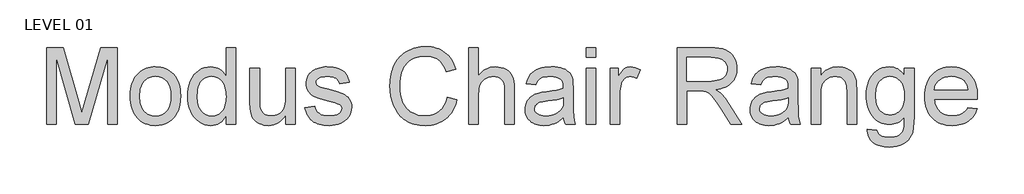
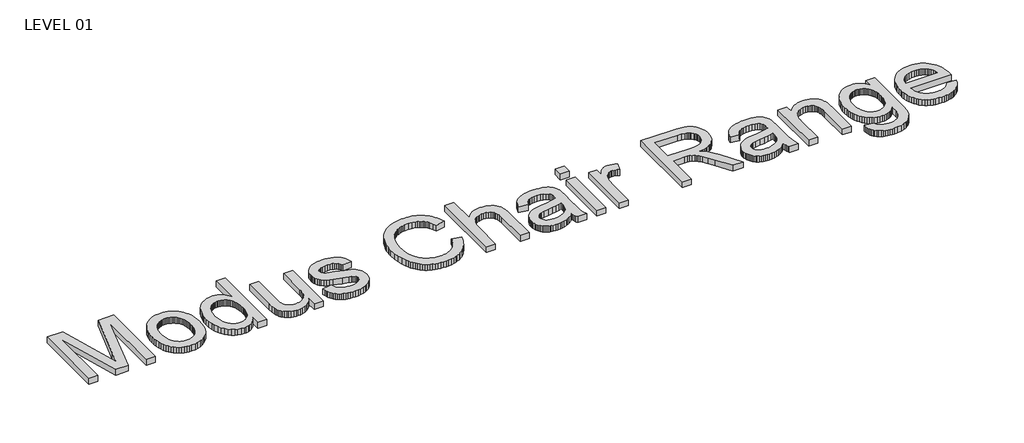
# One storey, part 1 of 2: 1 proxy.
"""IFC4 building model written with IfcOpenShell, lengths in millimetres."""

from ifc_helpers import new_model, si_unit, origin, origin_with_axes, place, context, project, spatial, polyline, outline, extrude, element, save

model = new_model("IFC4")

# Units and contexts
model_context = context("Model", 3, world=origin())
ifc_project = project(units=[si_unit("LENGTHUNIT", "METRE", prefix="MILLI")], contexts=[model_context])

# Site, building, storey
site = spatial("IfcSite", under=ifc_project)
building = spatial("IfcBuilding", under=site)
storey = spatial("IfcBuildingStorey", under=building, Name="LEVEL 01", Elevation=0.0)

# Proxy
placement = place(None, origin())
element("IfcBuildingElementProxy", 1, Name="72\" Arial", ObjectType="72\" Arial", at=placement, inside=storey, context=model_context, shape_type="SweptSolid", body=[
    extrude(outline(polyline([(-28846.8820435, -45475.3556235), (-28846.8820435, -43684.2399871), (-28461.6347594, -43684.2399871), (-28095.1906913, -44946.6791576), (-28021.2896799, -45210.3614644), (-27941.2666913, -44924.814953), (-27580.9446003, -43684.2399871), (-27195.6973163, -43684.2399871), (-27195.6973163, -45475.3556235), (-27419.5867708, -45475.3556235), (-27419.5867708, -43908.1294417), (-27869.5521003, -45475.3556235), (-28173.0272594, -45475.3556235), (-28622.992589, -43908.1294417), (-28622.992589, -45475.3556235), (-28846.8820435, -45475.3556235)])), origin_with_axes(), (0.0, 0.0, 1.0), 152.4),
    extrude(outline(polyline([(-26887.8493163, -44817.6803508), (-26884.8224904, -44729.5607739), (-26875.742013, -44647.3308671), (-26860.6078839, -44570.9906304), (-26839.4201032, -44500.5400638), (-26812.1786708, -44435.9791673), (-26778.8835868, -44377.307941), (-26739.5348512, -44324.5263847), (-26694.132464, -44277.6344985), (-26652.5768102, -44243.5058417), (-26608.8074057, -44213.9276725), (-26562.8242506, -44188.8999908), (-26514.6273447, -44168.4227968), (-26464.2166881, -44152.4960903), (-26411.5922807, -44141.1198714), (-26356.7541227, -44134.29414), (-26299.702214, -44132.0188962), (-26236.4634186, -44134.7895009), (-26176.1831234, -44143.1013149), (-26118.8613284, -44156.9543382), (-26064.4980336, -44176.3485709), (-26013.0932389, -44201.284013), (-25964.6469444, -44231.7606643), (-25919.1591501, -44267.778525), (-25876.629856, -44309.3375951), (-25838.1454397, -44355.7819483), (-25804.792279, -44406.4556586), (-25776.5703737, -44461.358726), (-25753.4797239, -44520.4911505), (-25735.5203297, -44583.852932), (-25722.6921909, -44651.4440706), (-25714.9953076, -44723.2645662), (-25712.4296799, -44799.3144189), (-25716.9665023, -44919.1575901), (-25730.5769697, -45025.499615), (-25753.2610819, -45118.3404935), (-25768.0057548, -45159.6980029), (-25785.018839, -45197.6802258), (-25825.4539523, -45266.2108419), (-25874.170133, -45326.6243721), (-25931.1673812, -45378.9208163), (-25996.4456969, -45423.1001746), (-26067.4633663, -45458.205888), (-26141.6786756, -45483.2813976), (-26219.0916248, -45498.3267034), (-26299.702214, -45503.3418053), (-26363.9385637, -45500.5814495), (-26425.0251014, -45492.300382), (-26482.9618272, -45478.4986029), (-26537.748741, -45459.1761121), (-26589.3858428, -45434.3329097), (-26637.8731327, -45403.9689956), (-26683.2106106, -45368.0843699), (-26725.3982765, -45326.6790326), (-26763.4727389, -45280.0809466), (-26796.4706064, -45228.6180752), (-26824.3918788, -45172.2904182), (-26847.2365563, -45111.0979758), (-26865.0046388, -45045.0407478), (-26877.6961263, -44974.1187343), (-26885.3110188, -44898.3319353), (-26887.8493163, -44817.6803508)]), holes=[polyline([(-26663.9598617, -44817.2430667), (-26662.3405441, -44873.3623304), (-26657.4825911, -44925.8398376), (-26649.3860029, -44974.6755882), (-26638.0507793, -45019.8695823), (-26623.4769205, -45061.4218198), (-26605.6644263, -45099.3323007), (-26584.6132969, -45133.601025), (-26560.3235322, -45164.2279928), (-26533.580877, -45191.2337017), (-26505.1710762, -45214.6386494), (-26475.0941298, -45234.4428359), (-26443.3500378, -45250.6462613), (-26409.9388003, -45263.2489254), (-26374.8604171, -45272.2508284), (-26338.1148883, -45277.6519702), (-26299.702214, -45279.4523508), (-26261.4945165, -45277.6417213), (-26224.9266344, -45272.209833), (-26189.9985677, -45263.1566858), (-26156.7103163, -45250.4822797), (-26125.0618802, -45234.1866148), (-26095.0532594, -45214.269691), (-26066.684454, -45190.7315082), (-26039.955464, -45163.5720667), (-26015.6656992, -45132.7025429), (-25994.6145698, -45098.0341135), (-25976.8020757, -45059.5667787), (-25962.2282168, -45017.3005383), (-25950.8929933, -44971.2353923), (-25942.796405, -44921.3713408), (-25937.9384521, -44867.7083838), (-25936.3191344, -44810.2465212), (-25937.9487009, -44755.9720497), (-25942.8374004, -44705.0933625), (-25950.9852329, -44657.6104595), (-25962.3921984, -44613.5233408), (-25977.0582968, -44572.8320064), (-25994.9835283, -44535.5364562), (-26016.1678927, -44501.6366903), (-26040.6113901, -44471.1327087), (-26067.4736152, -44444.1269998), (-26095.9141625, -44420.7220521), (-26125.9330321, -44400.9178656), (-26157.5302239, -44384.7144402), (-26190.705738, -44372.1117761), (-26225.4595744, -44363.1098731), (-26261.7917331, -44357.7087313), (-26299.702214, -44355.9083508), (-26338.1148883, -44357.7018988), (-26374.8604171, -44363.0825429), (-26409.9388003, -44372.050283), (-26443.3500378, -44384.6051192), (-26475.0941298, -44400.7470515), (-26505.1710762, -44420.4760798), (-26533.580877, -44443.7922042), (-26560.3235322, -44470.6954246), (-26584.6132969, -44501.2199039), (-26605.6644263, -44535.3998049), (-26623.4769205, -44573.2351277), (-26638.0507793, -44614.7258721), (-26649.3860029, -44659.8720382), (-26657.4825911, -44708.673626), (-26662.3405441, -44761.1306355), (-26663.9598617, -44817.2430667)])]), origin_with_axes(), (0.0, 0.0, 1.0), 152.4),
    extrude(outline(polyline([(-24648.9547708, -45475.3556235), (-24648.9547708, -45264.1474076), (-24680.6783651, -45320.2085945), (-24715.9412275, -45368.7949566), (-24754.743358, -45409.9064937), (-24797.0847566, -45443.5432059), (-24842.9654233, -45469.7050931), (-24892.3853582, -45488.3921554), (-24945.3445611, -45499.6043928), (-25001.8430322, -45503.3418053), (-25075.7440435, -45497.9304147), (-25146.5840663, -45481.6962428), (-25214.3631003, -45454.6392897), (-25279.0811458, -45416.7595553), (-25338.7157637, -45369.1912453), (-25391.2445151, -45313.0685652), (-25436.6674001, -45248.3915152), (-25474.9844185, -45175.1600951), (-25505.4029931, -45094.768148), (-25527.1305464, -45008.6095169), (-25540.1670783, -44916.684202), (-25544.512589, -44818.992203), (-25540.5087065, -44723.0903358), (-25528.4970591, -44631.7252911), (-25508.4776469, -44544.8970688), (-25480.4504697, -44462.6056689), (-25444.4291927, -44387.256154), (-25400.427481, -44321.2535866), (-25348.4453347, -44264.5979665), (-25288.4827538, -44217.2892939), (-25222.6578329, -44179.9834949), (-25153.0886671, -44153.3364956), (-25079.7752562, -44137.3482961), (-25002.7176003, -44132.0188962), (-24946.3626131, -44135.8314669), (-24893.1779356, -44147.2691789), (-24843.1635677, -44166.3320322), (-24796.3195094, -44193.0200269), (-24753.1650357, -44225.8026686), (-24714.2194214, -44263.149463), (-24679.4826664, -44305.0604101), (-24648.9547708, -44351.5355098), (-24648.9547708, -43684.2399871), (-24425.0653163, -43684.2399871), (-24425.0653163, -45475.3556235), (-24648.9547708, -45475.3556235)]), holes=[polyline([(-25320.6231344, -44818.1176348), (-25319.0448122, -44874.230066), (-25314.3098454, -44926.6870755), (-25306.418234, -44975.4886633), (-25295.3699782, -45020.6348294), (-25281.1650778, -45062.1255739), (-25263.8035329, -45099.9608966), (-25243.2853434, -45134.1407976), (-25219.6105094, -45164.6652769), (-25193.7902504, -45191.5684973), (-25166.8357857, -45214.8846217), (-25138.7471154, -45234.61365), (-25109.5242395, -45250.7555823), (-25079.167158, -45263.3104185), (-25047.6758709, -45272.2781586), (-25015.0503782, -45277.6588027), (-24981.2906799, -45279.4523508), (-24947.2884255, -45277.7407935), (-24914.5911909, -45272.6061217), (-24883.198976, -45264.0483354), (-24853.1117807, -45252.0674346), (-24824.3296052, -45236.6634192), (-24796.8524494, -45217.8362893), (-24770.6803133, -45195.5860449), (-24745.8131969, -45169.912686), (-24723.1120033, -45140.7205566), (-24703.4376355, -45107.914001), (-24686.7900935, -45071.493019), (-24673.1693773, -45031.4576107), (-24662.575487, -44987.8077761), (-24655.0084224, -44940.5435152), (-24650.4681837, -44889.6648279), (-24648.9547708, -44835.1717144), (-24650.495514, -44775.3526173), (-24655.1177435, -44719.6467236), (-24662.8214593, -44668.0540335), (-24673.6066614, -44620.5745468), (-24687.4733499, -44577.2082636), (-24704.4215247, -44537.9551839), (-24724.4511858, -44502.8153076), (-24747.5623333, -44471.7886348), (-24772.9282269, -44444.6291933), (-24799.7221263, -44421.0910106), (-24827.9440315, -44401.1740867), (-24857.5939427, -44384.8784218), (-24888.6718597, -44372.2040157), (-24921.1777825, -44363.1508685), (-24955.1117112, -44357.7189802), (-24990.4736458, -44355.9083508), (-25025.0532518, -44357.6472383), (-25058.1706891, -44362.8639008), (-25089.8259578, -44371.5583384), (-25120.0190577, -44383.730551), (-25148.749989, -44399.3805387), (-25176.0187516, -44418.5083014), (-25201.8253455, -44441.1138391), (-25226.1697708, -44467.1971519), (-25248.3072779, -44497.0247097), (-25267.4931174, -44530.8629825), (-25283.7272893, -44568.7119703), (-25297.0097935, -44610.5716732), (-25307.3406302, -44656.4420911), (-25314.7197992, -44706.323224), (-25320.6231344, -44818.1176348)])]), origin_with_axes(), (0.0, 0.0, 1.0), 152.4),
    extrude(outline(polyline([(-23249.6456799, -45475.3556235), (-23249.6456799, -45249.2797485), (-23288.4819732, -45308.825543), (-23330.6525577, -45360.4318983), (-23376.1574334, -45404.0988144), (-23424.9966003, -45439.8262911), (-23477.1700584, -45467.6143286), (-23532.6778077, -45487.4629267), (-23591.5198482, -45499.3720857), (-23653.6961799, -45503.3418053), (-23709.1629338, -45500.5541192), (-23762.7439001, -45492.191061), (-23814.4390787, -45478.2526306), (-23864.2484697, -45458.738828), (-23909.9719874, -45435.0161661), (-23949.4095464, -45408.4511576), (-23982.5611465, -45379.0438025), (-24009.4267878, -45346.7941008), (-24031.3866483, -45311.2374381), (-24049.8209057, -45271.9092002), (-24064.7295602, -45228.809387), (-24076.1126117, -45181.9379985), (-24085.9515038, -45097.1048848), (-24089.2311344, -44973.7907712), (-24089.2311344, -44160.005078), (-23865.3416799, -44160.005078), (-23865.3416799, -44868.4053053), (-23861.9527282, -45010.0853508), (-23857.7165386, -45060.2637002), (-23851.7858731, -45096.6676008), (-23838.3803827, -45137.0207233), (-23819.1535478, -45172.8096931), (-23794.1053685, -45204.0345102), (-23763.2358447, -45230.6951746), (-23727.4742051, -45252.0264392), (-23687.7496785, -45267.2630567), (-23644.0622648, -45276.4050272), (-23596.411964, -45279.4523508), (-23547.3404899, -45276.3367016), (-23499.8268404, -45266.9897542), (-23453.8710155, -45251.4115084), (-23409.4730151, -45229.6019644), (-23369.0379018, -45202.4220251), (-23334.9707381, -45170.7325937), (-23307.271524, -45134.53367), (-23285.9402594, -45093.8252542), (-23270.0613809, -45046.0109718), (-23258.7193248, -44988.4944488), (-23251.9140911, -44921.2756849), (-23249.6456799, -44844.3546803), (-23249.6456799, -44160.005078), (-23025.7562253, -44160.005078), (-23025.7562253, -45475.3556235), (-23249.6456799, -45475.3556235)])), origin_with_axes(), (0.0, 0.0, 1.0), 152.4),
    extrude(outline(polyline([(-22801.8667708, -45083.549078), (-22577.9773163, -45055.5628962), (-22564.4488397, -45106.6158138), (-22542.6666259, -45151.3281121), (-22512.6306749, -45189.6997911), (-22474.3409867, -45221.7308508), (-22427.6882403, -45246.984007), (-22372.5631145, -45265.0219758), (-22308.9656096, -45275.844757), (-22236.8957253, -45279.4523508), (-22164.9078319, -45276.1453898), (-22102.8681515, -45266.224507), (-22050.7766841, -45249.6897023), (-22008.6334299, -45226.5409758), (-21976.1104256, -45198.9374175), (-21952.8797083, -45169.0381178), (-21938.9412779, -45136.8430766), (-21934.2951344, -45102.3522939), (-21938.9686082, -45072.1250312), (-21952.9890293, -45045.2867201), (-21976.3563979, -45021.8373607), (-22009.070714, -45001.776953), (-22043.1515428, -44988.4397883), (-22092.9199384, -44973.3534871), (-22239.5194299, -44937.9334758), (-22443.8404214, -44878.845463), (-22519.1899363, -44852.5400919), (-22576.665464, -44828.393811), (-22622.2659956, -44803.0996593), (-22661.9905222, -44773.350676), (-22695.8390439, -44739.1468611), (-22723.8115606, -44700.4882144), (-22745.7167605, -44658.5362719), (-22761.3633319, -44614.4525695), (-22770.7512747, -44568.2371071), (-22773.880589, -44519.8898848), (-22771.3662055, -44475.6831963), (-22763.8230549, -44433.1436533), (-22751.2511373, -44392.2712559), (-22733.6504526, -44353.0660042), (-22711.7042573, -44316.3204754), (-22686.0958077, -44282.8272471), (-22656.8251039, -44252.5863191), (-22623.8921458, -44225.5976917), (-22595.3183635, -44206.8628014), (-22562.0711074, -44189.5764147), (-22481.5561742, -44159.3491519), (-22435.8189913, -44147.392165), (-22388.4693234, -44138.8514601), (-22339.5071703, -44133.7270372), (-22288.9325322, -44132.0188962), (-22213.6923383, -44134.7655869), (-22143.2076089, -44143.005659), (-22077.478344, -44156.7391125), (-22016.5045435, -44175.9659473), (-21961.7347111, -44199.8799211), (-21914.6173503, -44227.6747911), (-21875.1524611, -44259.3505574), (-21843.3400435, -44294.9072201), (-21817.5402822, -44335.5883057), (-21796.1133617, -44382.6373408), (-21779.0592822, -44436.0543255), (-21766.3780435, -44495.8392598), (-21990.2674981, -44523.8254417), (-22000.9399629, -44486.4239868), (-22018.5269824, -44453.3680425), (-22043.0285567, -44424.6576089), (-22074.4446856, -44400.292686), (-22112.9120204, -44380.8745393), (-22158.5672126, -44367.0044346), (-22211.4102619, -44358.6823717), (-22271.4411685, -44355.9083508), (-22341.07866, -44358.5593856), (-22400.0026913, -44366.51249), (-22448.2132623, -44379.767664), (-22485.7103731, -44398.3249076), (-22513.8332062, -44420.4077542), (-22533.9209441, -44444.2397371), (-22545.9735868, -44469.8208564), (-22549.9911344, -44497.1511121), (-22548.3239888, -44514.8337875), (-22543.322552, -44531.5872343), (-22534.9868241, -44547.4114523), (-22523.3168049, -44562.3064417), (-22508.0938525, -44576.7094864), (-22489.0993248, -44589.7460184), (-22439.7955435, -44611.7195439), (-22246.9532594, -44659.3835098), (-22049.1368688, -44717.870257), (-21918.3342651, -44764.7689758), (-21872.3101145, -44787.6443998), (-21831.5333731, -44815.1659672), (-21796.0040407, -44847.3336782), (-21765.7221174, -44884.1475326), (-21741.521176, -44925.662191), (-21724.2347893, -44971.9323138), (-21713.8629572, -45022.9579012), (-21710.4056799, -45078.738953), (-21714.4642229, -45134.7659772), (-21726.6398518, -45189.153186), (-21746.9325666, -45241.9005794), (-21775.3423674, -45293.0081576), (-21811.4046398, -45340.4398163), (-21854.6547694, -45382.1594516), (-21905.0927562, -45418.1670635), (-21962.7186003, -45448.4626519), (-22025.960812, -45472.4722815), (-22093.2479015, -45489.6220169), (-22164.5798688, -45499.9118582), (-22239.956714, -45503.3418053), (-22302.112548, -45501.6883248), (-22360.4558113, -45496.7278834), (-22414.9865039, -45488.4604811), (-22465.7046259, -45476.8861178), (-22512.6101772, -45462.0047936), (-22555.7031579, -45443.8165084), (-22594.9835679, -45422.3212623), (-22630.4514072, -45397.5190553), (-22662.4961319, -45369.4645478), (-22691.5071984, -45338.2124005), (-22717.4846064, -45303.7626132), (-22740.428356, -45266.115186), (-22760.3384473, -45225.2701189), (-22777.2148802, -45181.2274118), (-22791.0576547, -45133.9870649), (-22801.8667708, -45083.549078)])), origin_with_axes(), (0.0, 0.0, 1.0), 152.4),
    extrude(outline(polyline([(-19471.5111344, -44838.6699871), (-19247.6216799, -44896.3914871), (-19267.9348924, -44968.2051502), (-19291.9240243, -45035.6254747), (-19319.5890757, -45098.6524606), (-19350.9300464, -45157.2861079), (-19385.9469365, -45211.5264165), (-19424.6397459, -45261.3733866), (-19467.0084748, -45306.8270181), (-19513.0531231, -45347.887311), (-19562.2749136, -45384.3219581), (-19614.1750691, -45415.8986522), (-19668.7535897, -45442.6173935), (-19726.0104753, -45464.4781817), (-19785.9457261, -45481.481017), (-19848.5593418, -45493.6258994), (-19913.8513226, -45500.9128288), (-19981.8216685, -45503.3418053), (-20051.7563765, -45501.5038456), (-20118.3499608, -45495.9899665), (-20181.6024213, -45486.800168), (-20241.513758, -45473.9344502), (-20298.083971, -45457.3928129), (-20351.3130602, -45437.1752563), (-20401.2010257, -45413.2817803), (-20447.7478674, -45385.7123848), (-20491.2849647, -45354.6583818), (-20532.1436969, -45320.311083), (-20570.3240641, -45282.6704884), (-20605.8260663, -45241.7365979), (-20638.6497033, -45197.5094117), (-20668.7949753, -45149.9889296), (-20696.2618823, -45099.1751517), (-20721.0504242, -45045.068078), (-20762.0868031, -44931.5108657), (-20791.3985023, -44813.854115), (-20808.9855219, -44692.0978259), (-20814.8478617, -44566.2419985), (-20813.190965, -44497.6088939), (-20808.2202747, -44431.2032052), (-20799.935791, -44367.0249323), (-20788.3375137, -44305.0740752), (-20773.4254429, -44245.350634), (-20755.1995787, -44187.8546086), (-20733.6599209, -44132.585999), (-20708.8064697, -44079.5448053), (-20680.8988623, -44029.1785604), (-20650.1967364, -43981.9347971), (-20616.7000917, -43937.8135156), (-20580.4089285, -43896.8147158), (-20541.3232466, -43858.9383977), (-20499.443046, -43824.1845613), (-20454.7683268, -43792.5532067), (-20407.299089, -43764.0443337), (-20357.8176611, -43738.7809286), (-20307.1063716, -43716.8859775), (-20255.1652207, -43698.3594805), (-20201.9942083, -43683.2014374), (-20147.5933344, -43671.4118484), (-20091.9625989, -43662.9907133), (-20035.102002, -43657.9380323), (-19977.0115435, -43656.2538053), (-19911.6546533, -43658.4333932), (-19848.9556305, -43664.9721569), (-19788.9144751, -43675.8700963), (-19731.531187, -43691.1272116), (-19676.8057663, -43710.7435026), (-19624.7382129, -43734.7189694), (-19575.3285269, -43763.0536119), (-19528.5767083, -43795.7474303), (-19484.8790457, -43832.3973032), (-19444.631828, -43872.6001093), (-19407.835055, -43916.3558486), (-19374.4887268, -43963.6645212), (-19344.5928433, -44014.526127), (-19318.1474047, -44068.9406661), (-19295.1524108, -44126.9081384), (-19275.6078617, -44188.4285439), (-19499.4973163, -44241.777203), (-19534.7533461, -44153.7327843), (-19577.1152424, -44078.5062556), (-19600.9608905, -44045.6996999), (-19626.5830052, -44016.0976167), (-19653.9815865, -43989.700006), (-19683.1566344, -43966.5068678), (-19714.1901398, -43946.2653972), (-19747.1640932, -43928.7227893), (-19782.0784949, -43913.8790442), (-19818.9333447, -43901.7341618), (-19898.4643887, -43885.5409853), (-19985.7572253, -43880.1432598), (-20086.195915, -43886.1285858), (-20133.1971222, -43893.6102433), (-20178.0529043, -43904.0845638), (-20220.7632614, -43917.5515473), (-20261.3281934, -43934.0111938), (-20299.7477003, -43953.4635033), (-20336.0217822, -43975.9084758), (-20369.9147155, -44000.8746643), (-20401.1907768, -44027.8906221), (-20429.8499662, -44056.956349), (-20455.8922836, -44088.0718451), (-20479.317729, -44121.2371103), (-20500.1263024, -44156.4521448), (-20518.3180038, -44193.7169484), (-20533.8928333, -44233.0315212), (-20558.8590219, -44314.3390319), (-20576.6920137, -44396.9037343), (-20587.3918088, -44480.7256285), (-20590.9584072, -44565.8047144), (-20586.7358827, -44672.7206746), (-20574.0683091, -44772.6400894), (-20552.9556866, -44865.5629587), (-20523.3980151, -44951.4892826), (-20505.3327161, -44991.4017047), (-20484.9170151, -45028.71092), (-20462.1509121, -45063.4169284), (-20437.0344072, -45095.51973), (-20409.5675002, -45125.0193247), (-20379.7501913, -45151.9157126), (-20347.5824803, -45176.2088936), (-20313.0643674, -45197.8988678), (-20240.2155709, -45233.5785166), (-20164.442437, -45259.06398), (-20085.7449658, -45274.3552581), (-20004.1231572, -45279.4523508), (-19954.481164, -45277.7168795), (-19906.7864516, -45272.5104658), (-19861.0390198, -45263.8331096), (-19817.2388688, -45251.684811), (-19775.3859985, -45236.0655699), (-19735.4804089, -45216.9753863), (-19697.5221001, -45194.4142602), (-19661.5110719, -45168.3821917), (-19627.8846086, -45138.9338412), (-19597.0799942, -45106.1238692), (-19569.0972286, -45069.9522758), (-19543.936312, -45030.419061), (-19521.5972443, -44987.5242247), (-19502.0800254, -44941.2677669), (-19485.3846555, -44891.6496878), (-19471.5111344, -44838.6699871)])), origin_with_axes(), (0.0, 0.0, 1.0), 152.4),
    extrude(outline(polyline([(-18967.7598617, -45475.3556235), (-18967.7598617, -43684.2399871), (-18743.8704072, -43684.2399871), (-18743.8704072, -44342.789828), (-18704.0160618, -44293.3903909), (-18661.6336678, -44250.5775454), (-18616.7232252, -44214.3512915), (-18569.2847339, -44184.7116292), (-18519.3181939, -44161.6585585), (-18466.8236053, -44145.1920794), (-18411.8009681, -44135.312192), (-18354.2502822, -44132.0188962), (-18284.2574974, -44135.6128248), (-18219.020177, -44146.3946107), (-18158.5383212, -44164.3642538), (-18102.8119299, -44189.5217542), (-18053.2621763, -44221.0198738), (-18011.3102339, -44258.0113749), (-17976.9561025, -44300.4962574), (-17950.1997822, -44348.4745212), (-17930.1120442, -44404.9114992), (-17915.76366, -44472.7725241), (-17907.1546295, -44552.0575958), (-17904.2849526, -44642.7667144), (-17904.2849526, -45475.3556235), (-18128.1744072, -45475.3556235), (-18128.1744072, -44665.9427712), (-18132.6292388, -44590.347284), (-18145.9937339, -44525.7932201), (-18168.2678922, -44472.2805794), (-18182.7460952, -44449.6647929), (-18199.451714, -44429.8093621), (-18238.8072822, -44397.4776696), (-18285.5966799, -44374.3836036), (-18339.8199072, -44360.527164), (-18401.476964, -44355.9083508), (-18449.5098883, -44359.0239999), (-18496.0943091, -44368.3709473), (-18541.2302264, -44383.9491931), (-18584.9176401, -44405.7587371), (-18624.7924832, -44432.897681), (-18658.4906884, -44464.4641263), (-18686.0122559, -44500.4580731), (-18707.3571856, -44540.8795212), (-18723.33172, -44587.5869282), (-18734.7421018, -44642.4387513), (-18741.5883308, -44705.4349907), (-18743.8704072, -44776.5756462), (-18743.8704072, -45475.3556235), (-18967.7598617, -45475.3556235)])), origin_with_axes(), (0.0, 0.0, 1.0), 152.4),
    extrude(outline(polyline([(-16756.8514981, -45307.4385326), (-16809.9405197, -45357.2615887), (-16863.8221188, -45399.1588706), (-16918.4962953, -45433.1303785), (-16973.9630492, -45459.1761121), (-17030.8509764, -45478.4986029), (-17089.7886728, -45492.300382), (-17150.7761383, -45500.5814495), (-17213.8133731, -45503.3418053), (-17265.1908375, -45501.6814923), (-17313.5004807, -45496.7005532), (-17358.7423027, -45488.398988), (-17400.9163035, -45476.7767968), (-17440.0224831, -45461.8339795), (-17476.0608415, -45443.5705361), (-17509.0313787, -45421.9864667), (-17538.9340947, -45397.0817712), (-17565.5298497, -45369.5943666), (-17588.5795041, -45340.2621696), (-17608.0830578, -45309.0851805), (-17624.0405109, -45276.0633991), (-17636.4518632, -45241.1968254), (-17645.3171149, -45204.4854594), (-17650.6362659, -45165.9293012), (-17652.4093163, -45125.5283508), (-17649.7309512, -45078.0556966), (-17641.695856, -45032.7148025), (-17628.3040307, -44989.5056682), (-17609.5554753, -44948.4282939), (-17586.4477442, -44910.384578), (-17559.9783915, -44876.2764189), (-17530.1474175, -44846.1038167), (-17496.9548219, -44819.8667712), (-17461.0018706, -44797.073338), (-17422.889829, -44777.2315723), (-17382.6186973, -44760.3414743), (-17340.1884753, -44746.4030439), (-17259.6188816, -44729.2396434), (-17146.4716231, -44712.7321689), (-17023.321491, -44695.7874104), (-16917.5534015, -44677.3121576), (-16829.1673546, -44657.3064104), (-16758.1633503, -44635.7701689), (-16756.8514981, -44585.9197826), (-16760.7050641, -44531.6418948), (-16772.2657623, -44486.0003678), (-16791.5335925, -44448.9952016), (-16818.5085549, -44420.6263962), (-16865.1339711, -44392.3122513), (-16921.9262424, -44372.0878621), (-16988.8853688, -44359.9532286), (-17066.0113503, -44355.9083508), (-17137.7259413, -44358.6003809), (-17199.3829981, -44366.6764715), (-17250.9825208, -44380.1366224), (-17292.5245094, -44398.9808337), (-17326.6599988, -44424.6849392), (-17356.0400236, -44458.7247726), (-17380.664584, -44501.1003341), (-17400.5336799, -44551.8116235), (-17624.4231344, -44523.8254417), (-17607.38272, -44459.3260383), (-17585.5595109, -44401.3858962), (-17558.9535069, -44350.0050155), (-17527.5647083, -44305.1833962), (-17490.0402672, -44266.0191398), (-17445.0273361, -44231.6103479), (-17392.525915, -44201.9570205), (-17332.5360038, -44177.0591576), (-17266.2737989, -44157.3540432), (-17194.9554966, -44143.2789616), (-17118.5810971, -44134.8339125), (-17037.1506003, -44132.0188962), (-16957.5512307, -44134.5059495), (-16885.7956444, -44141.9671093), (-16821.8838415, -44154.4023756), (-16765.8158219, -44171.8117485), (-16717.1269714, -44192.9790315), (-16675.3526756, -44216.6880283), (-16640.4929345, -44242.9387389), (-16612.5477481, -44271.7311633), (-16589.8909661, -44303.775888), (-16570.8964384, -44339.7834999), (-16555.564165, -44379.7539988), (-16543.8941458, -44423.6873848), (-16535.6950691, -44501.0866689), (-16532.9620435, -44619.5906576), (-16532.9620435, -44898.1406235), (-16530.1196969, -45140.7786334), (-16521.5926572, -45287.1048223), (-16504.7572197, -45383.2526618), (-16476.9896799, -45475.3556235), (-16700.8791344, -45475.3556235), (-16720.7755606, -45437.9678337), (-16736.7364299, -45397.5190553), (-16748.7617424, -45354.0092883), (-16756.8514981, -45307.4385326)]), holes=[polyline([(-16756.8514981, -44859.6596235), (-16824.5212111, -44879.0367748), (-16907.2772253, -44896.9380922), (-17005.1195407, -44913.3635759), (-17118.0481572, -44928.3132258), (-17234.2017438, -44945.4766263), (-17310.6717992, -44964.6078053), (-17337.3597939, -44975.8405404), (-17360.7954881, -44989.4236775), (-17380.9788819, -45005.3572165), (-17397.9099753, -45023.6411576), (-17411.3018006, -45043.6195745), (-17420.8673901, -45064.6365411), (-17426.6067438, -45086.6920574), (-17428.5198617, -45109.7861235), (-17424.3519977, -45144.577539), (-17411.8484057, -45176.3626263), (-17391.0090858, -45205.1413856), (-17361.8340378, -45230.9138167), (-17324.5965645, -45252.1494253), (-17279.5699682, -45267.3177172), (-17226.7542491, -45276.4186924), (-17166.1494072, -45279.4523508), (-17104.2737083, -45276.1043944), (-17045.8962822, -45266.0605255), (-16991.0171288, -45249.3207439), (-16939.6362481, -45225.8850496), (-16893.2841344, -45197.6938909), (-16853.4912822, -45166.6877158), (-16820.2576913, -45132.8665244), (-16793.5833617, -45096.2303167), (-16778.0871067, -45063.4340098), (-16767.0183532, -45023.6411576), (-16760.3771011, -44976.8517598), (-16758.1633503, -44923.0658167), (-16756.8514981, -44859.6596235)])]), origin_with_axes(), (0.0, 0.0, 1.0), 152.4),
    extrude(outline(polyline([(-16225.1140435, -45475.3556235), (-16225.1140435, -44160.005078), (-16001.224589, -44160.005078), (-16001.224589, -45475.3556235), (-16225.1140435, -45475.3556235)])), origin_with_axes(), (0.0, 0.0, 1.0), 152.4),
    extrude(outline(polyline([(-16225.1140435, -43908.1294417), (-16225.1140435, -43684.2399871), (-16001.224589, -43684.2399871), (-16001.224589, -43908.1294417), (-16225.1140435, -43908.1294417)])), origin_with_axes(), (0.0, 0.0, 1.0), 152.4),
    extrude(outline(polyline([(-15665.3904072, -45475.3556235), (-15665.3904072, -44160.005078), (-15469.4871344, -44160.005078), (-15469.4871344, -44354.5964985), (-15432.5912893, -44292.3928366), (-15397.1166174, -44241.777203), (-15363.0631188, -44202.7495979), (-15330.4307935, -44175.3100212), (-15297.7438077, -44156.370154), (-15263.5263276, -44142.8416775), (-15227.7783532, -44134.7245915), (-15190.4998844, -44132.0188962), (-15134.9648049, -44136.3370766), (-15078.9924413, -44149.2916178), (-15022.5827935, -44170.8825198), (-14965.7358617, -44201.1097826), (-15040.5114413, -44401.8231803), (-15079.8670094, -44381.7354424), (-15119.2225776, -44367.3870581), (-15158.5781458, -44358.7780276), (-15197.933714, -44355.9083508), (-15232.24685, -44358.6687066), (-15264.7835194, -44366.9497741), (-15295.5437221, -44380.7515532), (-15324.5274583, -44400.0740439), (-15350.6415176, -44424.2886505), (-15372.7926898, -44452.7667769), (-15390.980975, -44485.5084232), (-15405.2063731, -44522.5135894), (-15421.0852516, -44583.6240411), (-15432.4273077, -44647.5768394), (-15439.2325414, -44714.3719843), (-15441.5009526, -44784.0094758), (-15441.5009526, -45475.3556235), (-15665.3904072, -45475.3556235)])), origin_with_axes(), (0.0, 0.0, 1.0), 152.4),
    extrude(outline(polyline([(-14098.1642253, -45475.3556235), (-14098.1642253, -43684.2399871), (-13326.3578049, -43684.2399871), (-13215.5746135, -43687.2599804), (-13118.9211643, -43696.3199601), (-13036.3974572, -43711.4199264), (-12968.0034924, -43732.5598792), (-12909.7627175, -43761.3659687), (-12857.6985805, -43799.4643451), (-12811.8110812, -43846.8550084), (-12772.1002197, -43903.5379587), (-12740.0554949, -43966.4658724), (-12717.1664057, -44032.591426), (-12703.4329523, -44101.9146196), (-12698.8551344, -44174.435453), (-12700.7511709, -44221.3751672), (-12706.4392804, -44266.4290937), (-12715.9194628, -44309.5972325), (-12729.1917182, -44350.8795837), (-12746.2560466, -44390.2761473), (-12767.112448, -44427.7869232), (-12791.7609223, -44463.4119115), (-12820.2014697, -44497.1511121), (-12852.6049041, -44528.4510874), (-12889.1420396, -44556.7583998), (-12929.8128764, -44582.0730491), (-12974.6174143, -44604.3950354), (-13023.5556533, -44623.7243587), (-13076.6275936, -44640.0610191), (-13133.833235, -44653.4050164), (-13195.1725776, -44663.7563508), (-13121.3808873, -44711.9669218), (-13092.1101834, -44735.826235), (-13067.9229072, -44759.5215667), (-12976.2025691, -44868.2959843), (-12886.4500094, -44989.9702826), (-12587.7849753, -45475.3556235), (-12847.9690094, -45475.3556235), (-13081.0414299, -45104.1014303), (-13174.2922623, -44962.4213848), (-13249.3958049, -44858.3477712), (-13281.5498507, -44819.1151892), (-13311.9820904, -44786.6878408), (-13340.692524, -44761.0657261), (-13367.6811515, -44742.2488451), (-13420.4285449, -44716.1757812), (-13474.1598276, -44699.6136462), (-13526.5245975, -44693.710311), (-13604.0332026, -44691.7425326), (-13874.2747708, -44691.7425326), (-13874.2747708, -45475.3556235), (-14098.1642253, -45475.3556235)]), holes=[polyline([(-13874.2747708, -44467.853078), (-13373.1472026, -44467.853078), (-13297.1554267, -44465.8716345), (-13229.2260762, -44459.9273039), (-13169.3591511, -44450.0200862), (-13117.5546515, -44436.1499814), (-13072.6510414, -44417.9207009), (-13033.486785, -44394.9359559), (-13000.0618823, -44367.1957464), (-12972.3763333, -44334.7000723), (-12950.6624452, -44299.0477538), (-12935.1525251, -44261.8376107), (-12925.846573, -44223.069643), (-12922.744589, -44182.7438508), (-12928.6615893, -44125.4869651), (-12936.0578398, -44098.8467984), (-12946.4125904, -44073.5321491), (-12959.7258412, -44049.5430171), (-12975.9975922, -44026.8794026), (-13017.4165947, -43985.5287258), (-13042.8029859, -43967.3882685), (-13071.6261568, -43951.666539), (-13103.8861074, -43938.363537), (-13139.5828376, -43927.4792627), (-13221.2866369, -43912.9668969), (-13316.7375549, -43908.1294417), (-13874.2747708, -43908.1294417), (-13874.2747708, -44467.853078)])]), origin_with_axes(), (0.0, 0.0, 1.0), 152.4),
    extrude(outline(polyline([(-11495.4493163, -45307.4385326), (-11548.5383379, -45357.2615887), (-11602.419937, -45399.1588706), (-11657.0941135, -45433.1303785), (-11712.5608674, -45459.1761121), (-11769.4487946, -45478.4986029), (-11828.386491, -45492.300382), (-11889.3739565, -45500.5814495), (-11952.4111913, -45503.3418053), (-12003.7886557, -45501.6814923), (-12052.0982989, -45496.7005532), (-12097.3401209, -45488.398988), (-12139.5141216, -45476.7767968), (-12178.6203012, -45461.8339795), (-12214.6586596, -45443.5705361), (-12247.6291968, -45421.9864667), (-12277.5319128, -45397.0817712), (-12304.1276679, -45369.5943666), (-12327.1773223, -45340.2621696), (-12346.680876, -45309.0851805), (-12362.638329, -45276.0633991), (-12375.0496814, -45241.1968254), (-12383.9149331, -45204.4854594), (-12389.2340841, -45165.9293012), (-12391.0071344, -45125.5283508), (-12388.3287694, -45078.0556966), (-12380.2936742, -45032.7148025), (-12366.9018489, -44989.5056682), (-12348.1532935, -44948.4282939), (-12325.0455623, -44910.384578), (-12298.5762097, -44876.2764189), (-12268.7452356, -44846.1038167), (-12235.5526401, -44819.8667712), (-12199.5996888, -44797.073338), (-12161.4876472, -44777.2315723), (-12121.2165155, -44760.3414743), (-12078.7862935, -44746.4030439), (-11998.2166998, -44729.2396434), (-11885.0694413, -44712.7321689), (-11761.9193091, -44695.7874104), (-11656.1512197, -44677.3121576), (-11567.7651728, -44657.3064104), (-11496.7611685, -44635.7701689), (-11495.4493163, -44585.9197826), (-11499.3028823, -44531.6418948), (-11510.8635805, -44486.0003678), (-11530.1314107, -44448.9952016), (-11557.1063731, -44420.6263962), (-11603.7317893, -44392.3122513), (-11660.5240606, -44372.0878621), (-11727.483187, -44359.9532286), (-11804.6091685, -44355.9083508), (-11876.3237594, -44358.6003809), (-11937.9808163, -44366.6764715), (-11989.580339, -44380.1366224), (-12031.1223276, -44398.9808337), (-12065.257817, -44424.6849392), (-12094.6378418, -44458.7247726), (-12119.2624022, -44501.1003341), (-12139.1314981, -44551.8116235), (-12363.0209526, -44523.8254417), (-12345.9805382, -44459.3260383), (-12324.157329, -44401.3858962), (-12297.5513251, -44350.0050155), (-12266.1625265, -44305.1833962), (-12228.6380854, -44266.0191398), (-12183.6251543, -44231.6103479), (-12131.1237332, -44201.9570205), (-12071.1338219, -44177.0591576), (-12004.871617, -44157.3540432), (-11933.5533148, -44143.2789616), (-11857.1789153, -44134.8339125), (-11775.7484185, -44132.0188962), (-11696.1490489, -44134.5059495), (-11624.3934626, -44141.9671093), (-11560.4816596, -44154.4023756), (-11504.4136401, -44171.8117485), (-11455.7247896, -44192.9790315), (-11413.9504938, -44216.6880283), (-11379.0907527, -44242.9387389), (-11351.1455663, -44271.7311633), (-11328.4887843, -44303.775888), (-11309.4942566, -44339.7834999), (-11294.1619832, -44379.7539988), (-11282.491964, -44423.6873848), (-11274.2928873, -44501.0866689), (-11271.5598617, -44619.5906576), (-11271.5598617, -44898.1406235), (-11268.7175151, -45140.7786334), (-11260.1904753, -45287.1048223), (-11243.3550378, -45383.2526618), (-11215.5874981, -45475.3556235), (-11439.4769526, -45475.3556235), (-11459.3733788, -45437.9678337), (-11475.3342481, -45397.5190553), (-11487.3595606, -45354.0092883), (-11495.4493163, -45307.4385326)]), holes=[polyline([(-11495.4493163, -44859.6596235), (-11563.1190293, -44879.0367748), (-11645.8750435, -44896.9380922), (-11743.7173589, -44913.3635759), (-11856.6459753, -44928.3132258), (-11972.799562, -44945.4766263), (-12049.2696174, -44964.6078053), (-12075.9576121, -44975.8405404), (-12099.3933063, -44989.4236775), (-12119.5767001, -45005.3572165), (-12136.5077935, -45023.6411576), (-12149.8996188, -45043.6195745), (-12159.4652083, -45064.6365411), (-12165.204562, -45086.6920574), (-12167.1176799, -45109.7861235), (-12162.9498159, -45144.577539), (-12150.4462239, -45176.3626263), (-12129.606904, -45205.1413856), (-12100.431856, -45230.9138167), (-12063.1943827, -45252.1494253), (-12018.1677864, -45267.3177172), (-11965.3520673, -45276.4186924), (-11904.7472253, -45279.4523508), (-11842.8715265, -45276.1043944), (-11784.4941003, -45266.0605255), (-11729.6149469, -45249.3207439), (-11678.2340663, -45225.8850496), (-11631.8819526, -45197.6938909), (-11592.0891003, -45166.6877158), (-11558.8555094, -45132.8665244), (-11532.1811799, -45096.2303167), (-11516.6849249, -45063.4340098), (-11505.6161714, -45023.6411576), (-11498.9749192, -44976.8517598), (-11496.7611685, -44923.0658167), (-11495.4493163, -44859.6596235)])]), origin_with_axes(), (0.0, 0.0, 1.0), 152.4),
    extrude(outline(polyline([(-10963.7118617, -45475.3556235), (-10963.7118617, -44160.005078), (-10739.8224072, -44160.005078), (-10739.8224072, -44343.6643962), (-10702.8855666, -44294.0599821), (-10662.0404995, -44251.06949), (-10617.2872058, -44214.6929196), (-10568.6256856, -44184.9302712), (-10516.0559388, -44161.7815446), (-10459.5779654, -44145.24674), (-10399.1917655, -44135.3258571), (-10334.897339, -44132.0188962), (-10278.5560169, -44134.6835961), (-10224.5377665, -44142.6776959), (-10172.8425879, -44156.0011956), (-10123.470481, -44174.6540951), (-10078.2935684, -44197.6388401), (-10039.1839725, -44223.9578763), (-10006.1416934, -44253.6112037), (-9979.166731, -44286.5988223), (-9957.0155588, -44322.8797368), (-9938.4446501, -44362.4129516), (-9923.4540048, -44405.1984669), (-9912.0436231, -44451.2362826), (-9903.1886202, -44536.1787172), (-9900.2369526, -44667.6919076), (-9900.2369526, -45475.3556235), (-10124.1264072, -45475.3556235), (-10124.1264072, -44697.8645098), (-10125.7388922, -44635.7974992), (-10130.5763475, -44582.0935468), (-10138.6387729, -44536.7526526), (-10149.9261685, -44499.7748167), (-10165.2994373, -44468.6319903), (-10185.6194824, -44440.7961249), (-10210.8863038, -44416.2672204), (-10241.0999015, -44395.0452769), (-10275.2217257, -44377.9228717), (-10312.2132268, -44365.6925823), (-10352.0744047, -44358.3544086), (-10394.8052594, -44355.9083508), (-10462.7892704, -44361.4017321), (-10525.9358262, -44377.8818763), (-10584.2449267, -44405.3487833), (-10637.7165719, -44443.802453), (-10661.6476271, -44468.2425342), (-10682.3878748, -44497.6157265), (-10699.9373153, -44531.9220299), (-10714.2959484, -44571.1614445), (-10725.4637741, -44615.3339703), (-10733.4407925, -44664.4396071), (-10738.2270035, -44718.4783552), (-10739.8224072, -44777.4502144), (-10739.8224072, -45475.3556235), (-10963.7118617, -45475.3556235)])), origin_with_axes(), (0.0, 0.0, 1.0), 152.4),
    extrude(outline(polyline([(-9648.3613163, -45587.3003508), (-9424.4718617, -45615.2865326), (-9415.0155932, -45653.0022854), (-9399.7653106, -45685.2519871), (-9378.7210137, -45712.0356377), (-9351.8827026, -45733.3532371), (-9308.4549263, -45755.1627812), (-9257.757302, -45770.7410269), (-9199.7898297, -45780.0879743), (-9134.5525094, -45783.2036235), (-9064.6417154, -45779.6780205), (-9003.1486401, -45769.1012116), (-8950.0732836, -45751.4731966), (-8905.4156458, -45726.7939758), (-8868.2464981, -45695.7468053), (-8837.6366117, -45659.0149417), (-8813.5859867, -45616.5983848), (-8796.0946231, -45568.4971348), (-8788.9067658, -45528.8955944), (-8783.9599895, -45472.1853138), (-8780.7896799, -45307.4385326), (-8816.9612733, -45346.7941008), (-8855.2919569, -45380.9022598), (-8895.7817307, -45409.7630098), (-8938.4305947, -45433.3763508), (-8983.2385489, -45451.7422826), (-9030.2055932, -45464.8608053), (-9079.3317278, -45472.7319189), (-9130.6169526, -45475.3556235), (-9193.8284177, -45472.3014674), (-9253.370796, -45463.1389992), (-9309.2440875, -45447.8682188), (-9361.4482921, -45426.4891263), (-9409.9834099, -45399.0017217), (-9454.8494409, -45365.4060049), (-9496.0463851, -45325.7019759), (-9533.5742424, -45279.8896348), (-9567.0367242, -45229.8069413), (-9596.0375417, -45177.291855), (-9620.5766951, -45122.344376), (-9640.6541841, -45064.9645042), (-9656.270009, -45005.1522396), (-9667.4241696, -44942.9075823), (-9674.116666, -44878.2305322), (-9676.3474981, -44811.1210894), (-9672.3436156, -44718.9224718), (-9660.3319682, -44630.3587783), (-9640.312556, -44545.4300088), (-9612.2853788, -44464.1361633), (-9576.6740556, -44389.182937), (-9533.9022055, -44323.2760255), (-9483.9698283, -44266.4154285), (-9426.8769242, -44218.6011462), (-9363.5390567, -44180.7214118), (-9294.8717893, -44153.6644587), (-9220.875122, -44137.4302868), (-9141.5490549, -44132.0188962), (-9087.9885863, -44135.0798848), (-9036.8468454, -44144.2628508), (-8988.1238321, -44159.5677939), (-8941.8195464, -44180.9947144), (-8897.9339883, -44208.5436121), (-8856.4671579, -44242.2144871), (-8817.4190551, -44282.0073394), (-8780.7896799, -44327.9221689), (-8780.7896799, -44160.005078), (-8556.9002253, -44160.005078), (-8556.9002253, -45295.6318621), (-8560.7264611, -45437.9268383), (-8572.2051685, -45557.8383351), (-8591.3363475, -45655.3663525), (-8603.7716138, -45695.7365565), (-8618.1199981, -45730.5108905), (-8653.1983812, -45791.1157325), (-8697.213758, -45845.0246618), (-8750.1661284, -45892.2376785), (-8812.0554924, -45932.7547826), (-8882.2532541, -45965.2777868), (-8960.1308177, -45988.5085042), (-9045.6881831, -46002.4469346), (-9138.9253503, -46007.093078), (-9195.1539351, -46005.456679), (-9248.6153315, -46000.5474818), (-9299.3095395, -45992.3654865), (-9347.2365591, -45980.9106931), (-9392.3963904, -45966.1831016), (-9434.7890332, -45948.1827119), (-9474.4144877, -45926.9095241), (-9511.2727538, -45902.3635383), (-9544.4551004, -45874.5310891), (-9573.0527967, -45843.3985116), (-9597.0658426, -45808.9658057), (-9616.4942381, -45771.2329715), (-9631.3379832, -45730.2000089), (-9641.597078, -45685.8669179), (-9647.2715223, -45638.2336985), (-9648.3613163, -45587.3003508)]), holes=[polyline([(-9452.4580435, -44795.8161462), (-9450.9651283, -44853.172104), (-9446.4863827, -44906.5173468), (-9439.0218066, -44955.8518746), (-9428.5714001, -45001.1756874), (-9415.1351631, -45042.4887851), (-9398.7130957, -45079.7911679), (-9379.3051979, -45113.0828356), (-9356.9114697, -45142.3637883), (-9332.2629953, -45167.9346587), (-9306.0908592, -45190.0960798), (-9278.3950614, -45208.8480515), (-9249.1756018, -45224.1905738), (-9218.4324804, -45236.1236467), (-9186.1656973, -45244.6472701), (-9152.3752524, -45249.7614442), (-9117.0611458, -45251.4661689), (-9082.1364953, -45249.7716931), (-9048.6398507, -45244.6882655), (-9016.5712119, -45236.2158863), (-8985.930579, -45224.3545553), (-8956.717952, -45209.1042726), (-8928.9333308, -45190.4650383), (-8902.5767155, -45168.4368522), (-8877.648106, -45143.0197144), (-8854.9469124, -45113.9744852), (-8835.2725446, -45081.0620248), (-8818.6250026, -45044.2823332), (-8805.0042864, -45003.6354104), (-8794.4103961, -44959.1212565), (-8786.8433315, -44910.7398714), (-8782.3030928, -44858.4912551), (-8780.7896799, -44802.3754076), (-8782.3475045, -44748.7568622), (-8787.0209782, -44698.5341011), (-8794.8101011, -44651.7071243), (-8805.7148731, -44608.2759317), (-8819.7352942, -44568.2405234), (-8836.8713645, -44531.6008994), (-8857.123084, -44498.3570597), (-8880.4904526, -44468.5090042), (-8906.0510742, -44442.118226), (-8932.8825528, -44419.2462183), (-8960.9848882, -44399.892981), (-8990.3580805, -44384.0585141), (-9021.0021296, -44371.7428176), (-9052.9170357, -44362.9458916), (-9086.1027987, -44357.667736), (-9120.5594185, -44355.9083508), (-9154.4591844, -44357.6404057), (-9187.0675957, -44362.8365706), (-9218.3846525, -44371.4968453), (-9248.4103546, -44383.62123), (-9277.1447022, -44399.2097246), (-9304.5876952, -44418.2623291), (-9330.7393336, -44440.7790435), (-9355.5996174, -44466.7598678), (-9378.300811, -44496.1501415), (-9397.9751788, -44528.8952041), (-9414.6227208, -44564.9950556), (-9428.243437, -44604.4496959), (-9438.8373273, -44647.2591252), (-9446.4043919, -44693.4233433), (-9450.9446306, -44742.9423503), (-9452.4580435, -44795.8161462)])]), origin_with_axes(), (0.0, 0.0, 1.0), 152.4),
    extrude(outline(polyline([(-7300.1457481, -45083.549078), (-7080.6291344, -45111.5352598), (-7095.9853218, -45156.8009958), (-7114.2863443, -45199.4566924), (-7135.5322018, -45239.5023495), (-7159.7228944, -45276.9379672), (-7186.858422, -45311.7635455), (-7216.9387846, -45343.9790844), (-7249.9639824, -45373.5845839), (-7285.9340151, -45400.5800439), (-7324.6712363, -45424.6648318), (-7365.9979991, -45445.5383145), (-7409.9143037, -45463.2004923), (-7456.4201501, -45477.651365), (-7505.5155381, -45488.8909326), (-7557.2004679, -45496.9191952), (-7611.4749394, -45501.7361528), (-7668.3389526, -45503.3418053), (-7739.6914176, -45500.5712006), (-7807.2586422, -45492.2593866), (-7871.0406264, -45478.4063633), (-7931.0373702, -45459.0121306), (-7987.2488736, -45434.0766886), (-8039.6751366, -45403.6000372), (-8088.3161591, -45367.5821765), (-8133.1719413, -45326.0231064), (-8173.4499056, -45279.4625996), (-8208.3574746, -45228.4404285), (-8237.8946485, -45172.9565932), (-8262.061427, -45113.0110937), (-8280.8578104, -45048.6039299), (-8294.2837985, -44979.7351018), (-8302.3393914, -44906.4046095), (-8305.024589, -44828.612453), (-8302.3120611, -44748.172678), (-8294.1744775, -44672.3653813), (-8280.6118381, -44601.1905629), (-8261.624143, -44534.6482229), (-8237.2113921, -44472.7383612), (-8207.3735854, -44415.4609779), (-8172.110723, -44362.8160729), (-8131.4228049, -44314.8036462), (-8086.4098738, -44271.9634704), (-8038.1719725, -44234.8353181), (-7986.7091011, -44203.4191892), (-7932.0212594, -44177.7150837), (-7874.1084476, -44157.7230017), (-7812.9706657, -44143.4429431), (-7748.6079136, -44134.8749079), (-7681.0201913, -44132.0188962), (-7615.6428034, -44134.8680754), (-7553.3195716, -44143.4156128), (-7494.0504959, -44157.6615086), (-7437.8355762, -44177.6057627), (-7384.6748126, -44203.2483751), (-7334.5682051, -44234.5893458), (-7287.5157537, -44271.6286748), (-7243.5174583, -44314.3663621), (-7203.7006921, -44362.2694678), (-7169.192828, -44414.8050517), (-7139.9938661, -44471.9731141), (-7116.1038063, -44533.7736547), (-7097.5226487, -44600.2066737), (-7084.2503933, -44671.2721711), (-7076.2870401, -44746.9701467), (-7073.632589, -44827.3006008), (-7074.9444413, -44887.6458053), (-8081.1351344, -44887.6458053), (-8076.2532675, -44933.7041187), (-8068.1669281, -44976.9884111), (-8056.8761162, -45017.4986826), (-8042.3808319, -45055.2349331), (-8024.681075, -45090.1971627), (-8003.7768457, -45122.3853714), (-7979.6681439, -45151.799559), (-7952.3549697, -45178.4397258), (-7922.5479096, -45202.1145597), (-7890.9575503, -45222.6327492), (-7857.5838918, -45239.9942941), (-7822.4269341, -45254.1991945), (-7785.4866773, -45265.2474504), (-7746.7631213, -45273.1390617), (-7706.2562661, -45277.8740285), (-7663.9661117, -45279.4523508), (-7602.0357523, -45276.5280134), (-7544.8061969, -45267.7550013), (-7492.2774455, -45253.1333145), (-7444.4494981, -45232.662953), (-7401.3223546, -45205.7973117), (-7362.8960151, -45171.9897854), (-7329.1704796, -45131.2403742), (-7300.1457481, -45083.549078)]), holes=[polyline([(-8081.1351344, -44663.7563508), (-7297.5220435, -44663.7563508), (-7309.0280812, -44600.4048181), (-7327.8039668, -44545.4710042), (-7353.8497005, -44498.954909), (-7387.1652822, -44460.8565326), (-7416.6409629, -44436.2593025), (-7448.2210734, -44414.941703), (-7481.9056135, -44396.9037343), (-7517.6945833, -44382.1453962), (-7555.5879828, -44370.6666888), (-7595.585812, -44362.4676121), (-7637.6880709, -44357.5481661), (-7681.8947594, -44355.9083508), (-7760.6195609, -44361.1420947), (-7832.8124313, -44376.8433266), (-7898.4733706, -44403.0120464), (-7957.6023788, -44439.6482542), (-7983.9726592, -44461.468047), (-8007.2204579, -44485.057474), (-8027.345775, -44510.416535), (-8044.3486103, -44537.54523), (-8058.2289639, -44566.4435591), (-8068.9868358, -44597.1115223), (-8076.622226, -44629.5491195), (-8081.1351344, -44663.7563508)])]), origin_with_axes(), (0.0, 0.0, 1.0), 152.4),
])

save(model, "model.ifc")
